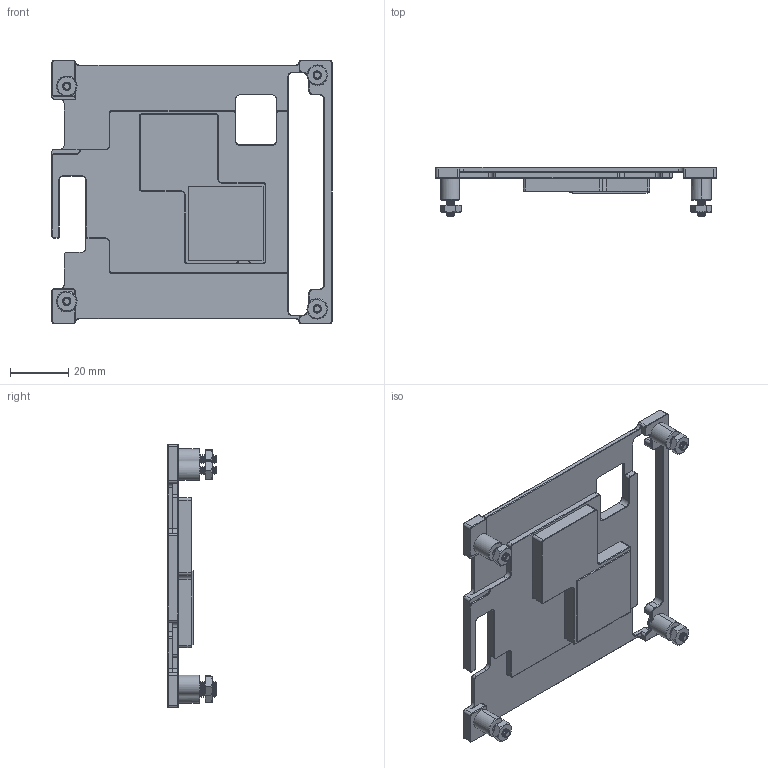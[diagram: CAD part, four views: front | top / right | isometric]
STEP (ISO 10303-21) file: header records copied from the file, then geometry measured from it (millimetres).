
FILE_DESCRIPTION (( 'STEP AP214' ), '1' );
FILE_NAME ('Assembly(0.01) Conduction Cooled XDG021.STEP', '2016-03-31T18:22:48', ( '' ), ( '' ), 'SwSTEP 2.0', 'SolidWorks 2015', '' );
FILE_SCHEMA (( 'AUTOMOTIVE_DESIGN' ));
Length unit declared in the file: inch
Products named in the file (8): 91772A111 Screw, 4-40X.563 PPHMS, SS_91772A111; XDG009_3D_MODEL; CTIA-00575 REV 0.01  Heat Plate - Top, Conduction Cooled XDG; Assembly(0.01) Conduction Cooled XDG021; 21464 Loctite 222 Threadlocker; GR45A-0H-50GY Thermal Pad, 1.00X1.00_50GR-ae; 92146A530 Lockwasher, #4, Split, SS_92146A530; 91841A005 Nut, 4-40, SS_91841A005
Assembly tree (15 placements, depth 2):
  Assembly(0.01) Conduction Cooled XDG021
    CTIA-00575 REV 0.01  Heat Plate - Top, Conduction Cooled XDG
    XDG009_3D_MODEL
    91772A111 Screw, 4-40X.563 PPHMS, SS_91772A111  x4
    91841A005 Nut, 4-40, SS_91841A005  x4
    92146A530 Lockwasher, #4, Split, SS_92146A530  x4
    GR45A-0H-50GY Thermal Pad, 1.00X1.00_50GR-ae
  21464 Loctite 222 Threadlocker
Bounding box: 95.89 x 16.7 x 90.17 mm (x, y, z)
Volume: 27865.7 mm3; surface area: 21028.4 mm2
Topology: 14 solids, 14 shells, 1269 faces, 3355 edges, 2115 vertices
Faces by surface type: cylinder 681, plane 293, cone 251, bspline 20, torus 16, sphere 8
Entity records: 1110098 total; most frequent: CARTESIAN_POINT 191066, DIRECTION 139171, ORIENTED_EDGE 123039, EDGE_CURVE 86762, VERTEX_POINT 66933, VECTOR 66621, LINE 66621, AXIS2_PLACEMENT_3D 36275
